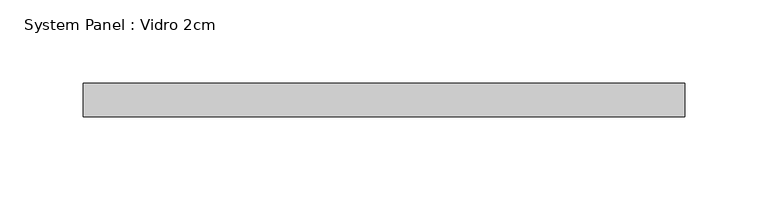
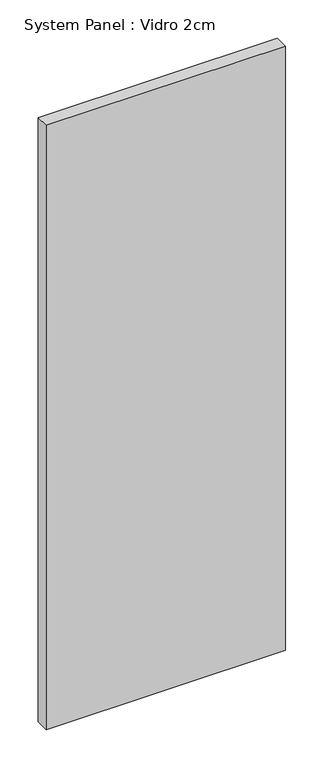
"""IFC4 building model written with IfcOpenShell, lengths in millimetres: plate geometry, System Panel : Vidro 2cm."""

from ifc_helpers import new_model, si_unit, origin, origin_with_axes, place, context, project, spatial, polyline, outline, extrude, source, transform, mapped, element, save


def system_panel_vidro_2cm_fbaab53a(model_context):
    return source(origin(), model_context, "Body", "SweptSolid", [
        extrude(outline(polyline([(179.9999998, -20.0), (-179.9999998, -20.0), (-179.9999998, 0.0), (179.9999998, 0.0), (179.9999998, -20.0)])), origin_with_axes(), (0.0, 0.0, 1.0), 960.0),
    ])


if __name__ == "__main__":
    model = new_model("IFC4")
    model_context = context("Model", 3, world=origin())
    ifc_project = project(units=[si_unit("LENGTHUNIT", "METRE", prefix="MILLI")], contexts=[model_context])
    site = spatial("IfcSite", under=ifc_project)
    building = spatial("IfcBuilding", under=site)
    placement = place(None, origin())
    system_panel_vidro_2cm_shape = system_panel_vidro_2cm_fbaab53a(model_context)
    element("IfcPlate", 1, ObjectType="System Panel : Vidro 2cm", at=placement, inside=building, context=model_context, shape_type="MappedRepresentation", body=[
        mapped(system_panel_vidro_2cm_shape, transform((0.0, 0.0, 0.0), x_axis=(1.0, 0.0, 0.0), y_axis=(0.0, 1.0, 0.0), z_axis=(0.0, 0.0, 1.0))),
    ])
    save(model, "model.ifc")
